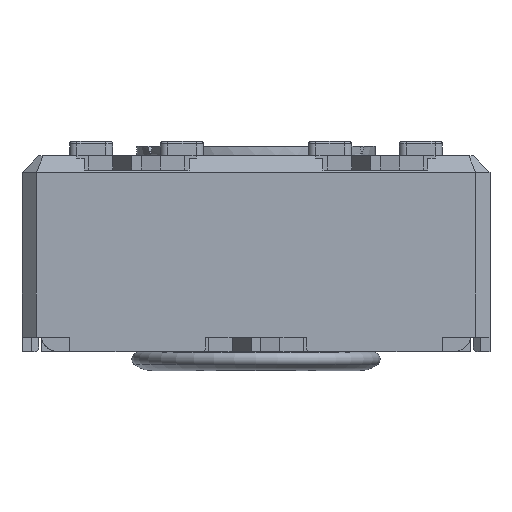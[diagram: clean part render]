
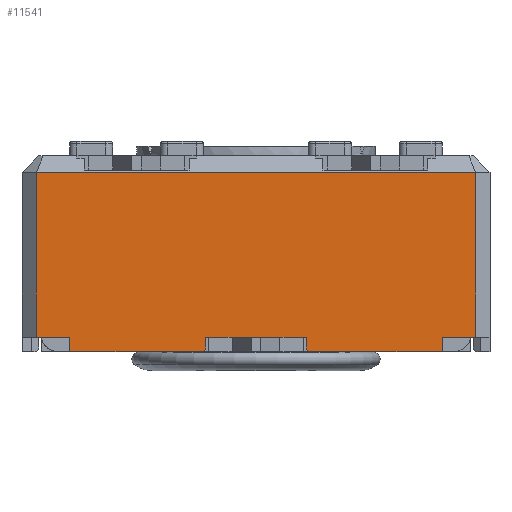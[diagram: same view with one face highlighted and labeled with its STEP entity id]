
A CAD part, front view. The second image highlights one B-rep face of the part: STEP entity #11541.
In plain terms, the highlighted planar face has unit normal (0, -1, 0).
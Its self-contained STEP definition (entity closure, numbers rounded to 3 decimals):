
#1026=FACE_OUTER_BOUND('',#1621,.T.);
#1621=EDGE_LOOP('',(#10297,#10298,#10299,#10300,#10301,#10302,#10303,#10304,
#10305,#10306,#10307,#10308,#10309,#10310,#10311,#10312));
#2166=LINE('',#16861,#3511);
#2268=LINE('',#17077,#3613);
#2274=LINE('',#17089,#3619);
#2282=LINE('',#17105,#3627);
#2288=LINE('',#17116,#3633);
#2453=LINE('',#17639,#3798);
#2459=LINE('',#17649,#3804);
#2462=LINE('',#17656,#3807);
#2475=LINE('',#17681,#3820);
#2531=LINE('',#17789,#3876);
#2533=LINE('',#17794,#3878);
#2535=LINE('',#17797,#3880);
#2537=LINE('',#17802,#3882);
#2723=LINE('',#18247,#4068);
#2966=LINE('',#18808,#4311);
#2968=LINE('',#18815,#4313);
#3511=VECTOR('',#13664,10.);
#3613=VECTOR('',#13844,10.);
#3619=VECTOR('',#13850,10.);
#3627=VECTOR('',#13860,10.);
#3633=VECTOR('',#13866,10.);
#3798=VECTOR('',#14341,10.);
#3804=VECTOR('',#14349,10.);
#3807=VECTOR('',#14356,10.);
#3820=VECTOR('',#14377,10.);
#3876=VECTOR('',#14477,10.);
#3878=VECTOR('',#14485,10.);
#3880=VECTOR('',#14489,10.);
#3882=VECTOR('',#14497,10.);
#4068=VECTOR('',#14921,10.);
#4311=VECTOR('',#15460,10.);
#4313=VECTOR('',#15472,10.);
#4796=VERTEX_POINT('',#16855);
#4797=VERTEX_POINT('',#16859);
#4872=VERTEX_POINT('',#17076);
#4877=VERTEX_POINT('',#17086);
#4878=VERTEX_POINT('',#17088);
#4884=VERTEX_POINT('',#17102);
#4885=VERTEX_POINT('',#17104);
#4890=VERTEX_POINT('',#17114);
#5038=VERTEX_POINT('',#17637);
#5039=VERTEX_POINT('',#17638);
#5042=VERTEX_POINT('',#17647);
#5043=VERTEX_POINT('',#17654);
#5044=VERTEX_POINT('',#17655);
#5052=VERTEX_POINT('',#17680);
#5197=VERTEX_POINT('',#18244);
#5198=VERTEX_POINT('',#18246);
#6060=EDGE_CURVE('',#4796,#4797,#2166,.T.);
#6168=EDGE_CURVE('',#4872,#4796,#2268,.T.);
#6174=EDGE_CURVE('',#4878,#4877,#2274,.T.);
#6182=EDGE_CURVE('',#4885,#4884,#2282,.T.);
#6188=EDGE_CURVE('',#4797,#4890,#2288,.T.);
#6431=EDGE_CURVE('',#5038,#5039,#2453,.T.);
#6437=EDGE_CURVE('',#5038,#5042,#2459,.T.);
#6440=EDGE_CURVE('',#5043,#5044,#2462,.T.);
#6453=EDGE_CURVE('',#5052,#5044,#2475,.T.);
#6509=EDGE_CURVE('',#4872,#5043,#2531,.T.);
#6511=EDGE_CURVE('',#4877,#5052,#2533,.T.);
#6513=EDGE_CURVE('',#4885,#5042,#2535,.T.);
#6515=EDGE_CURVE('',#4890,#5039,#2537,.T.);
#6735=EDGE_CURVE('',#5197,#5198,#2723,.T.);
#7014=EDGE_CURVE('',#5198,#4884,#2966,.T.);
#7016=EDGE_CURVE('',#5197,#4878,#2968,.T.);
#10297=ORIENTED_EDGE('',*,*,#6431,.F.);
#10298=ORIENTED_EDGE('',*,*,#6437,.T.);
#10299=ORIENTED_EDGE('',*,*,#6513,.F.);
#10300=ORIENTED_EDGE('',*,*,#6182,.T.);
#10301=ORIENTED_EDGE('',*,*,#7014,.F.);
#10302=ORIENTED_EDGE('',*,*,#6735,.F.);
#10303=ORIENTED_EDGE('',*,*,#7016,.T.);
#10304=ORIENTED_EDGE('',*,*,#6174,.T.);
#10305=ORIENTED_EDGE('',*,*,#6511,.T.);
#10306=ORIENTED_EDGE('',*,*,#6453,.T.);
#10307=ORIENTED_EDGE('',*,*,#6440,.F.);
#10308=ORIENTED_EDGE('',*,*,#6509,.F.);
#10309=ORIENTED_EDGE('',*,*,#6168,.T.);
#10310=ORIENTED_EDGE('',*,*,#6060,.T.);
#10311=ORIENTED_EDGE('',*,*,#6188,.T.);
#10312=ORIENTED_EDGE('',*,*,#6515,.T.);
#10776=PLANE('',#12417);
#11541=ADVANCED_FACE('',(#1026),#10776,.T.);
#12417=AXIS2_PLACEMENT_3D('',#18816,#15473,#15474);
#13664=DIRECTION('',(1.,0.,0.));
#13844=DIRECTION('',(1.,0.,0.));
#13850=DIRECTION('',(1.,0.,0.));
#13860=DIRECTION('',(1.,0.,0.));
#13866=DIRECTION('',(1.,0.,0.));
#14341=DIRECTION('',(-0.707,0.,0.707));
#14349=DIRECTION('',(1.,0.,0.));
#14356=DIRECTION('',(-0.707,0.,-0.707));
#14377=DIRECTION('',(1.,0.,0.));
#14477=DIRECTION('',(0.,0.,-1.));
#14485=DIRECTION('',(0.,0.,-1.));
#14489=DIRECTION('',(0.,0.,-1.));
#14497=DIRECTION('',(0.,0.,-1.));
#14921=DIRECTION('',(1.,0.,0.));
#15460=DIRECTION('',(0.,0.,-1.));
#15472=DIRECTION('',(0.,0.,-1.));
#15473=DIRECTION('center_axis',(0.,-1.,0.));
#15474=DIRECTION('ref_axis',(0.,0.,-1.));
#16855=CARTESIAN_POINT('',(-27.448,-17.99,-3.8));
#16859=CARTESIAN_POINT('',(-25.448,-17.99,-3.8));
#16861=CARTESIAN_POINT('',(-21.848,-17.99,-3.8));
#17076=CARTESIAN_POINT('',(-27.498,-17.99,-3.8));
#17077=CARTESIAN_POINT('',(-21.848,-17.99,-3.8));
#17086=CARTESIAN_POINT('',(-30.348,-17.99,-3.8));
#17088=CARTESIAN_POINT('',(-31.048,-17.99,-3.8));
#17089=CARTESIAN_POINT('',(-21.848,-17.99,-3.8));
#17102=CARTESIAN_POINT('',(-21.848,-17.99,-3.8));
#17104=CARTESIAN_POINT('',(-22.548,-17.99,-3.8));
#17105=CARTESIAN_POINT('',(-21.848,-17.99,-3.8));
#17114=CARTESIAN_POINT('',(-25.398,-17.99,-3.8));
#17116=CARTESIAN_POINT('',(-21.848,-17.99,-3.8));
#17637=CARTESIAN_POINT('',(-25.348,-17.99,-4.1));
#17638=CARTESIAN_POINT('',(-25.398,-17.99,-4.05));
#17639=CARTESIAN_POINT('',(-27.81,-17.99,-1.637));
#17647=CARTESIAN_POINT('',(-22.548,-17.99,-4.1));
#17649=CARTESIAN_POINT('',(-21.848,-17.99,-4.1));
#17654=CARTESIAN_POINT('',(-27.498,-17.99,-4.05));
#17655=CARTESIAN_POINT('',(-27.548,-17.99,-4.1));
#17656=CARTESIAN_POINT('',(-27.385,-17.99,-3.938));
#17680=CARTESIAN_POINT('',(-30.348,-17.99,-4.1));
#17681=CARTESIAN_POINT('',(-21.848,-17.99,-4.1));
#17789=CARTESIAN_POINT('',(-27.498,-17.99,-3.8));
#17794=CARTESIAN_POINT('',(-30.348,-17.99,-3.8));
#17797=CARTESIAN_POINT('',(-22.548,-17.99,-3.8));
#17802=CARTESIAN_POINT('',(-25.398,-17.99,-3.8));
#18244=CARTESIAN_POINT('',(-31.048,-17.99,-0.35));
#18246=CARTESIAN_POINT('',(-21.848,-17.99,-0.35));
#18247=CARTESIAN_POINT('',(-28.748,-17.99,-0.35));
#18808=CARTESIAN_POINT('',(-21.848,-17.99,0.));
#18815=CARTESIAN_POINT('',(-31.048,-17.99,0.));
#18816=CARTESIAN_POINT('Origin',(-31.048,-17.99,0.));
